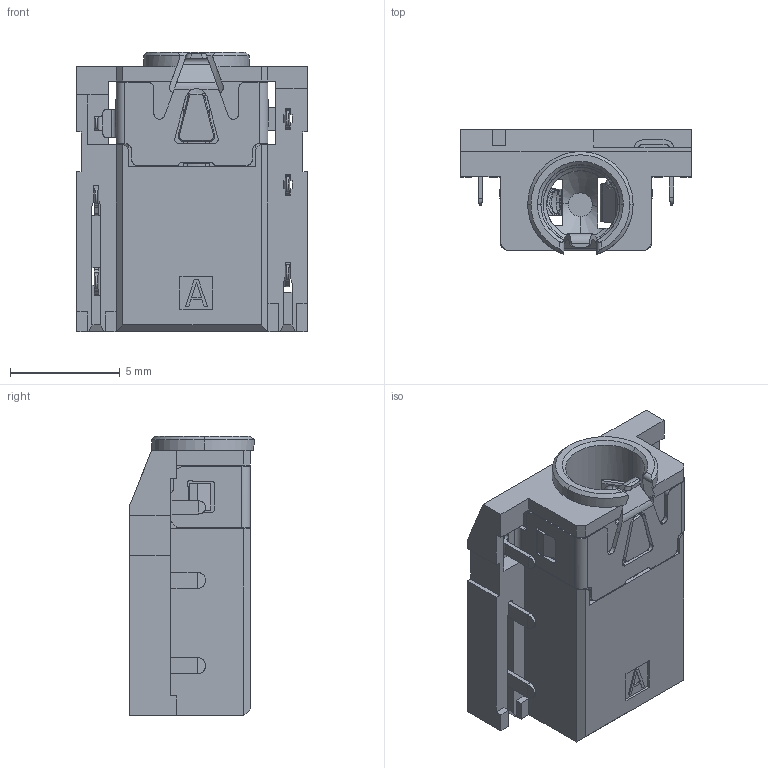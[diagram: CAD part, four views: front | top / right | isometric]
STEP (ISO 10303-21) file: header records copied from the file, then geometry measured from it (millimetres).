
FILE_DESCRIPTION (( 'STEP AP214' ), '1' );
FILE_NAME ('J3A-1.STEP', '2021-04-06T12:54:32', ( '' ), ( '' ), 'SwSTEP 2.0', 'SolidWorks 2016', '' );
FILE_SCHEMA (( 'AUTOMOTIVE_DESIGN' ));
Length unit declared in the file: millimetre
Products named in the file (3): D3A02G1P5-23#傷赽 (2); J3A-1
Assembly tree (2 placements, depth 2):
  J3A-1
    J3A-1
    D3A02G1P5-23#傷赽 (2)
Bounding box: 10.5 x 5.68 x 12.7 mm (x, y, z)
Volume: 331.3 mm3; surface area: 1113.2 mm2
Topology: 2 solids, 6 shells, 1107 faces, 3198 edges, 2068 vertices
Faces by surface type: plane 712, cylinder 318, bspline 52, cone 17, torus 8
Entity records: 39195 total; most frequent: CARTESIAN_POINT 11499, ORIENTED_EDGE 6380, DIRECTION 4838, EDGE_CURVE 3190, LINE 2210, VECTOR 2210, VERTEX_POINT 2068, AXIS2_PLACEMENT_3D 1314
